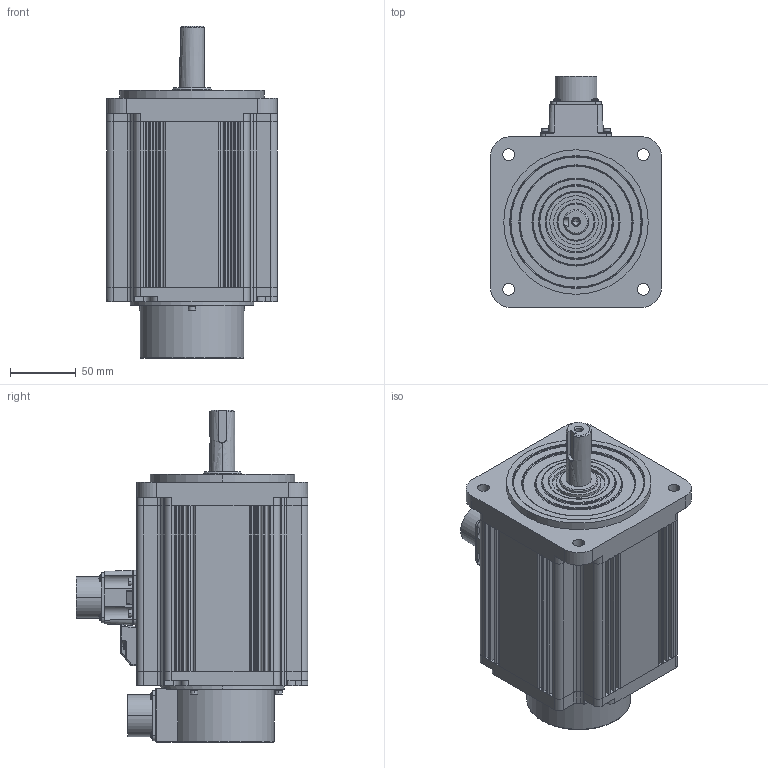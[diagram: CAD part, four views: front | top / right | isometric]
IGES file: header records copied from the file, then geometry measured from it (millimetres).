
Start section:  PTC IGES file: ECMA-LX1308S9.igs
Global section: file name: ECMA-LX1308S9.igs; native system: Pro/ENGINEER by Parametric Technology Corporation; preprocessor: 2010180; author: MIO.CHEN; organization: Unknown; date: 20160325.140430; units: millimetre
Bounding box: 130 x 176.14 x 252.7 mm (x, y, z)
Volume: 2679398.8 mm3; surface area: 162788.9 mm2
Topology: 1 solids, 1 shells, 649 faces, 1577 edges, 945 vertices
Faces by surface type: revolution 369, bspline 280
